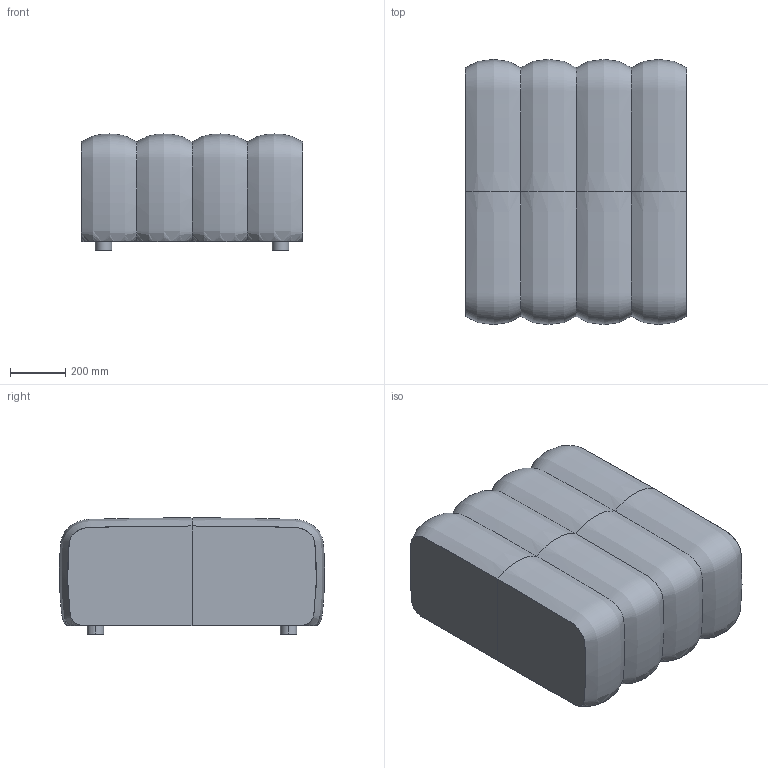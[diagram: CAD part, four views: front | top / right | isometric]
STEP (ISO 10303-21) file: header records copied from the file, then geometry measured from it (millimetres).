
FILE_DESCRIPTION(/* description */ (''),/* implementation_level */ '2;1');
FILE_NAME(/* name */ 'Studio Ottoman',/* time_stamp */ '2021-09-06T11:34:56+02:00',/* author */ (''),/* organization */ (''),/* preprocessor_version */ 'ST-DEVELOPER v15',/* originating_system */ '',/* authorisation */ '');
FILE_SCHEMA (('AUTOMOTIVE_DESIGN'));
Length unit declared in the file: millimetre
Products named in the file (1): Document
Bounding box: 800 x 960 x 420.28 mm (x, y, z)
Volume: 339979.2 mm3; surface area: 2760254.2 mm2
Topology: 4 solids, 14 shells, 32 faces, 70 edges, 60 vertices
Faces by surface type: bspline 16, plane 16
Entity records: 16145 total; most frequent: CARTESIAN_POINT 15654, ORIENTED_EDGE 96, EDGE_CURVE 66, VERTEX_POINT 52, B_SPLINE_CURVE_WITH_KNOTS 46, ADVANCED_FACE 32, FACE_OUTER_BOUND 32, EDGE_LOOP 32
